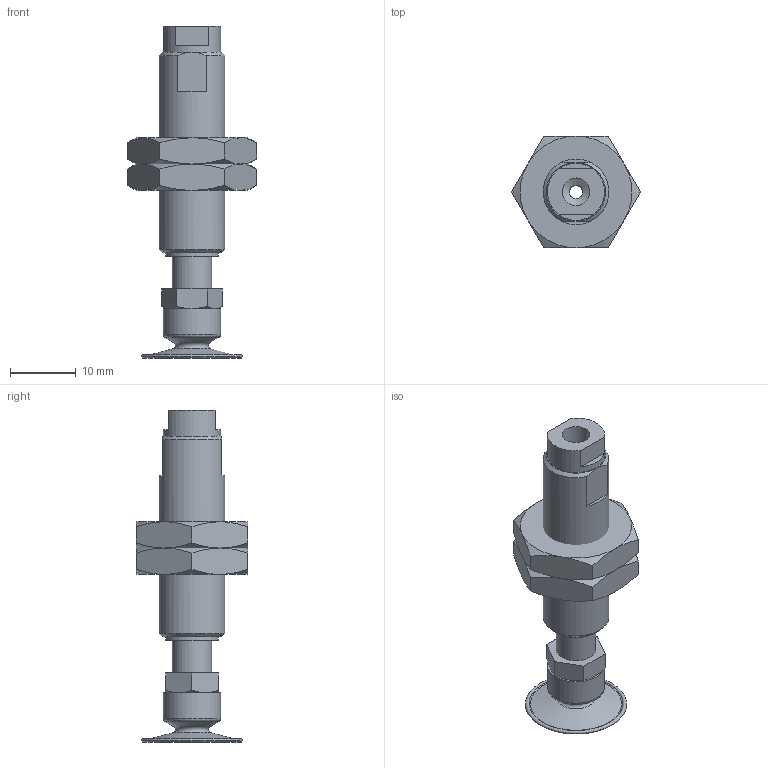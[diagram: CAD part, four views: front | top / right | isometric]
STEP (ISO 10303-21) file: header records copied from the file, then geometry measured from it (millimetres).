
FILE_DESCRIPTION(('STEP AP203'),'1');
FILE_NAME('-LB.stp','2025-03-28T08:02:47',(' '),(' '),'Spatial InterOp 3D',' ',' ');
FILE_SCHEMA(('CONFIG_CONTROL_DESIGN'));
Length unit declared in the file: millimetre
Products named in the file (8): BNAPFTH-10A-5-※-LB; __; BODY; NUT; TN-PS-10-M5; Setting screws-TN-PS-10-M5; BPAG-15B
Assembly tree (7 placements, depth 3):
  BNAPFTH-10A-5-※-LB
    __
    BODY
    NUT
    NUT
    TN-PS-10-M5
      Setting screws-TN-PS-10-M5
    BPAG-15B
Bounding box: 19.63 x 17 x 50.5 mm (x, y, z)
Volume: 4563.2 mm3; surface area: 4239.4 mm2
Topology: 6 solids, 6 shells, 168 faces, 376 edges, 228 vertices
Faces by surface type: plane 78, cone 50, cylinder 31, torus 9
Full cylindrical faces by diameter (mm): 2 x3, 3.9 x1, 4 x2, 4.2 x2, 5 x1, 6 x3, 8 x1, 8.5 x1, 8.7 x2, 9 x2, 10 x1
Entity records: 4898 total; most frequent: CARTESIAN_POINT 1032, DIRECTION 728, ORIENTED_EDGE 654, EDGE_CURVE 327, AXIS2_PLACEMENT_3D 303, EDGE_LOOP 226, VERTEX_POINT 217, FACE_OUTER_BOUND 196
